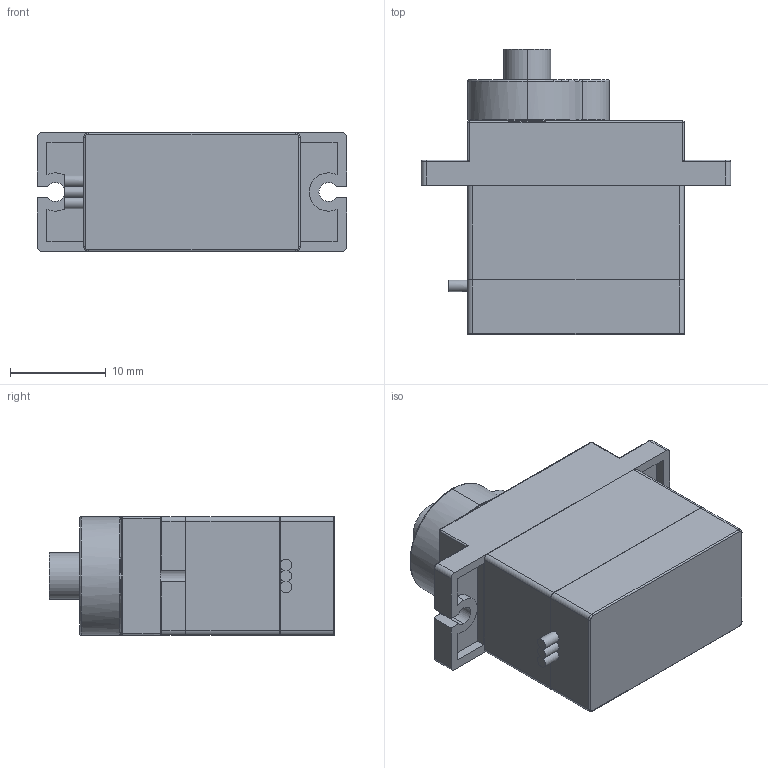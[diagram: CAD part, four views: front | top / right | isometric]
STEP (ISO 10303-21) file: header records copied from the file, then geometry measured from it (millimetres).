
FILE_DESCRIPTION(('FreeCAD Model'),'2;1');
FILE_NAME('/home/dalencon/Bureau/Collège exe learning/Base de donnée robotique/Servo motors/Servo 9g.step','2020-03-20T15:54:19',('Author'),( ''),'Open CASCADE STEP processor 6.9','FreeCAD','Unknown');
FILE_SCHEMA(('AUTOMOTIVE_DESIGN { 1 0 10303 214 1 1 1 1 }'));
Length unit declared in the file: millimetre
Products named in the file (1): microservoSG90
Bounding box: 32.3 x 29.8 x 12.4 mm (x, y, z)
Volume: 7090.7 mm3; surface area: 2787.7 mm2
Topology: 1 solids, 1 shells, 178 faces, 443 edges, 272 vertices
Faces by surface type: cylinder 76, plane 63, bspline 18, torus 17, sphere 4
Entity records: 15052 total; most frequent: CARTESIAN_POINT 5056, DIRECTION 1630, LINE 928, VECTOR 928, ORIENTED_EDGE 878, PCURVE 878, DEFINITIONAL_REPRESENTATION 878, EDGE_CURVE 439
